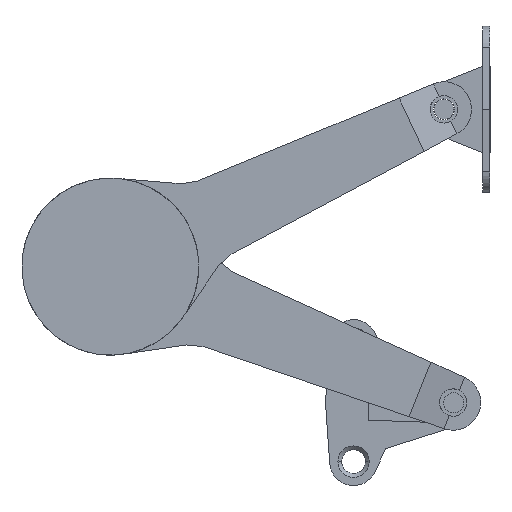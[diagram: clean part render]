
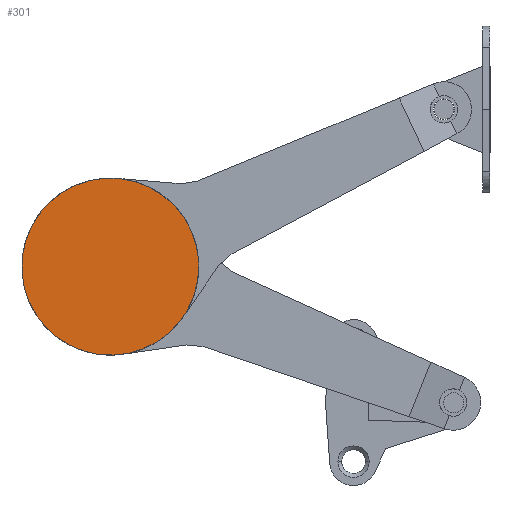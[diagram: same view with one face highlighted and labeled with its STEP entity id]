
A CAD part, left-side view. The second image highlights one B-rep face of the part: STEP entity #301.
In plain terms, the highlighted planar face has unit normal (-1, 0, 0).
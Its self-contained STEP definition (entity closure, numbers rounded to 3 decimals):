
#301=ADVANCED_FACE('',(#691),#692,.T.);
#691=FACE_OUTER_BOUND('',#1188,.T.);
#692=PLANE('',#1189);
#1188=EDGE_LOOP('',(#1989,#1990,#1991));
#1189=AXIS2_PLACEMENT_3D('',#1992,#1993,#1994);
#1989=ORIENTED_EDGE('',*,*,#3004,.T.);
#1990=ORIENTED_EDGE('',*,*,#3014,.T.);
#1991=ORIENTED_EDGE('',*,*,#3005,.T.);
#1992=CARTESIAN_POINT('',(-17.0,65.957,20.866));
#1993=DIRECTION('',(-1.0,0.0,0.0));
#1994=DIRECTION('',(0.0,-1.0,0.0));
#3004=EDGE_CURVE('',#3621,#3618,#3622,.T.);
#3005=EDGE_CURVE('',#3623,#3621,#3624,.T.);
#3014=EDGE_CURVE('',#3618,#3623,#3638,.T.);
#3618=VERTEX_POINT('',#4469);
#3621=VERTEX_POINT('',#4473);
#3622=CIRCLE('',#4474,23.999);
#3623=VERTEX_POINT('',#4475);
#3624=CIRCLE('',#4476,23.999);
#3638=CIRCLE('',#4493,23.999);
#4469=CARTESIAN_POINT('',(-17.0,42.005,22.374));
#4473=CARTESIAN_POINT('',(-17.0,41.958,20.866));
#4474=AXIS2_PLACEMENT_3D('',#5470,#5471,#5472);
#4475=CARTESIAN_POINT('',(-17.0,89.909,19.358));
#4476=AXIS2_PLACEMENT_3D('',#5473,#5474,#5475);
#4493=AXIS2_PLACEMENT_3D('',#5491,#5492,#5493);
#5470=CARTESIAN_POINT('',(-17.0,65.957,20.866));
#5471=DIRECTION('',(-1.0,0.0,0.0));
#5472=DIRECTION('',(0.0,-1.0,0.));
#5473=CARTESIAN_POINT('',(-17.0,65.957,20.866));
#5474=DIRECTION('',(-1.0,0.0,0.0));
#5475=DIRECTION('',(0.0,-1.0,0.));
#5491=CARTESIAN_POINT('',(-17.0,65.957,20.866));
#5492=DIRECTION('',(-1.0,0.0,0.0));
#5493=DIRECTION('',(0.0,-1.0,0.));
